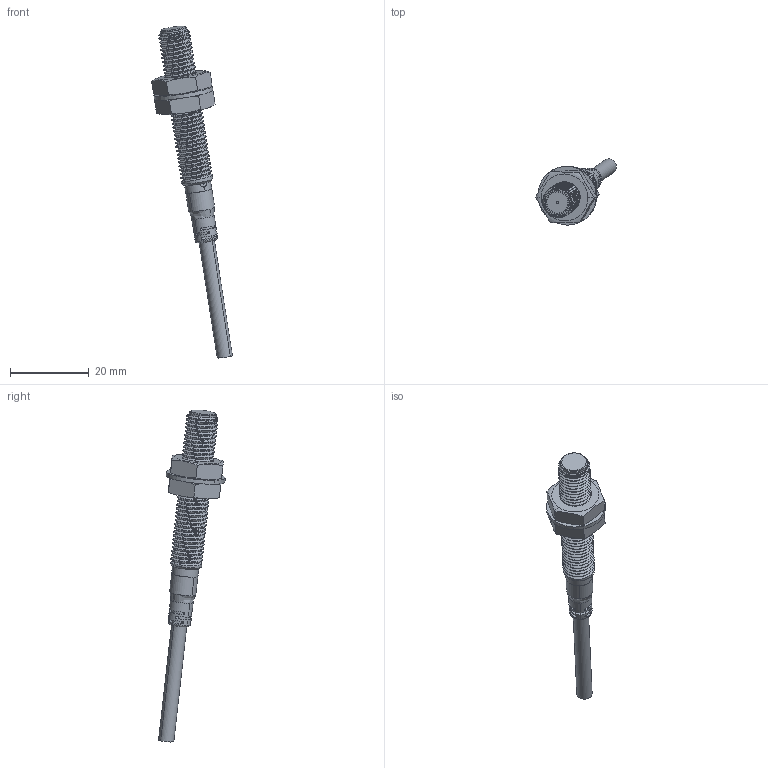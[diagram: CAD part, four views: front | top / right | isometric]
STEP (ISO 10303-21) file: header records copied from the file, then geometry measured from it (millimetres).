
FILE_DESCRIPTION (( 'STEP AP214' ), '1' );
FILE_NAME ('SN08Y-B-K40.STEP', '2025-08-20T00:59:34', ( 'Windows User' ), ( 'P R C' ), 'SwSTEP 2.0', 'SolidWorks 2023', '' );
FILE_SCHEMA (( 'AUTOMOTIVE_DESIGN' ));
Length unit declared in the file: millimetre
Products named in the file (10): 零件161_装配体50.STEP; SD2005104-SN08Y包胶尾塞3D.STEP; 零件160_装配体50.STEP; 垫片_2; SN08Y-02BPAL.STEP; SN08Y-B-K40(2); SD2005095-M08带料斗导光后塞.STEP; SN08Y-B-K40; GX-M08-埋入-带屏蔽.STEP; M8×1-12×4_2
Assembly tree (10 placements, depth 4):
  SN08Y-B-K40
    SN08Y-B-K40(2)
      SN08Y-02BPAL.STEP
        GX-M08-埋入-带屏蔽.STEP
        零件160_装配体50.STEP
        SD2005095-M08带料斗导光后塞.STEP
        SD2005104-SN08Y包胶尾塞3D.STEP
        零件161_装配体50.STEP
      M8×1-12×4_2
      垫片_2
    M8×1-12×4_2
Bounding box: 20.51 x 16.95 x 84.32 mm (x, y, z)
Volume: 3234.1 mm3; surface area: 5178.9 mm2
Topology: 9 solids, 9 shells, 324 faces, 838 edges, 542 vertices
Faces by surface type: cylinder 180, plane 82, cone 32, torus 23, bspline 7
Entity records: 16864 total; most frequent: CARTESIAN_POINT 9462, ORIENTED_EDGE 1612, DIRECTION 1403, EDGE_CURVE 806, AXIS2_PLACEMENT_3D 561, VERTEX_POINT 522, EDGE_LOOP 342, FACE_OUTER_BOUND 310
